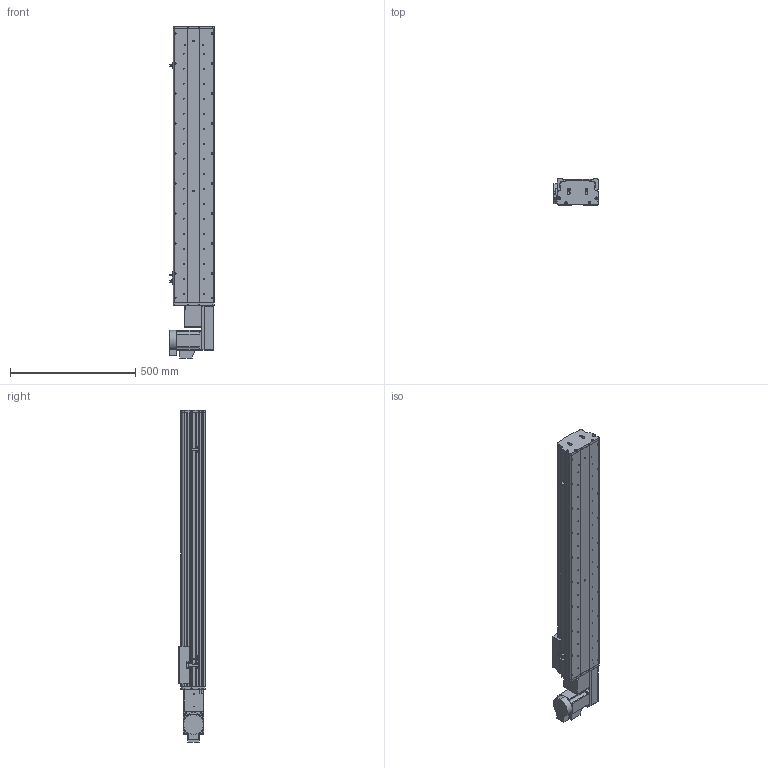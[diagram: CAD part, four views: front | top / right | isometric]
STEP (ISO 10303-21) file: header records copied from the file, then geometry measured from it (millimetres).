
FILE_DESCRIPTION (( 'STEP AP214' ), '1' );
FILE_NAME ('KSD165B-S850-MRB-CM .STEP', '2017-10-16T08:53:33', ( '微软用户' ), ( '微软中国' ), 'SwSTEP 2.0', 'SolidWorks 2014', '' );
FILE_SCHEMA (( 'AUTOMOTIVE_DESIGN' ));
Length unit declared in the file: millimetre
Products named in the file (17): KSD165模组-后端板1-同步带; KSD165模组-同步带滑动座-最新版; KSD165B-S850-MRB-CM ; HTPA26S5M250-A-H8 750W萇儂蚚; HTPA26S5M250-A-H8 400W萇儂蚚 ; 130宽模组马达安装板连板左右折同步带; 130宽模组保护罩上下左右折-同步带; KSD165模组-同步带防尘盖1-850行程-最新版; KSD165模组同步带底板-850行程-最新; 拸秶雄ん750W侜督萇儂; 165宽马达安装板同步带右; U倰嫖萇假蚾璃; U倰嫖萇EEㄜSX672; 覜茼え68遵圉猾敕; KSD165模组-同步带-防撞垫2; KSD165模组同步带-防撞垫1; KSD165耀郪-ヶ傷啣1-肮祭湍
Assembly tree (20 placements, depth 2):
  KSD165B-S850-MRB-CM 
    KSD165模组-同步带滑动座-最新版
    KSD165模组-后端板1-同步带
    KSD165耀郪-ヶ傷啣1-肮祭湍
    KSD165模组同步带-防撞垫1
    KSD165模组-同步带-防撞垫2
    覜茼え68遵圉猾敕
    U倰嫖萇EEㄜSX672  x3
    U倰嫖萇假蚾璃  x3
    165宽马达安装板同步带右
    拸秶雄ん750W侜督萇儂
    KSD165模组同步带底板-850行程-最新
    KSD165模组-同步带防尘盖1-850行程-最新版
    130宽模组保护罩上下左右折-同步带
    130宽模组马达安装板连板左右折同步带
    HTPA26S5M250-A-H8 400W萇儂蚚 
    HTPA26S5M250-A-H8 750W萇儂蚚
Bounding box: 178.7 x 104 x 1327.5 mm (x, y, z)
Volume: 7238175.6 mm3; surface area: 1681995 mm2
Topology: 21 solids, 21 shells, 1953 faces, 5514 edges, 3600 vertices
Faces by surface type: cylinder 1255, plane 586, cone 112
Entity records: 63340 total; most frequent: CARTESIAN_POINT 13000, DIRECTION 10414, ORIENTED_EDGE 9688, EDGE_CURVE 4844, AXIS2_PLACEMENT_3D 4084, VERTEX_POINT 3192, CIRCLE 2328, LINE 2246
